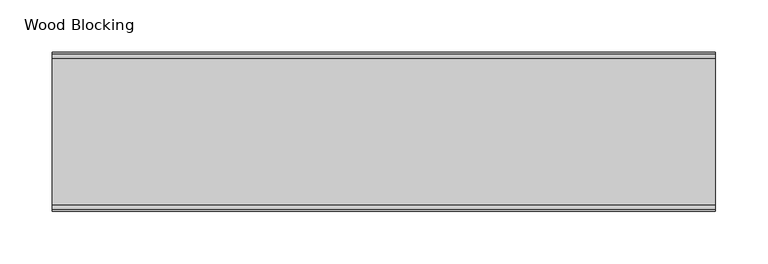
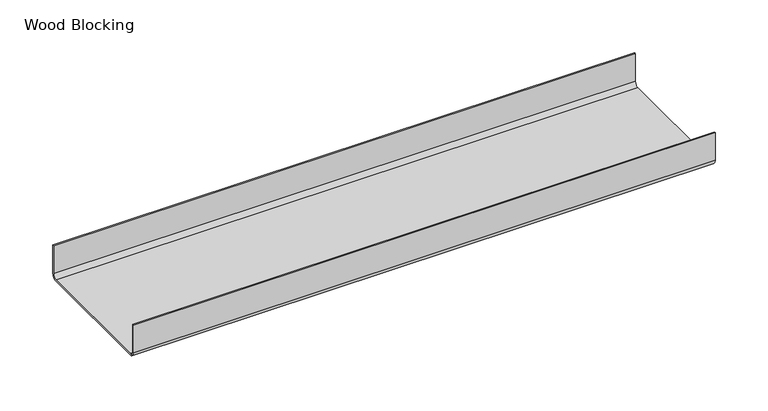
"""IFC4 building model written with IfcOpenShell, lengths in millimetres: proxy geometry, CRAi Generic Model Line Based Metal Framing Track : Wood Blocking."""

from ifc_helpers import new_model, si_unit, point, frame, frame_2d, origin, place, context, project, spatial, polyline, circle_curve, trimmed, segment, composite_curve, outline, extrude, source, transform, mapped, element, save


def wood_blocking_45ac4bf3(model_context):
    return source(origin(), model_context, "Body", "SweptSolid", [
        extrude(outline(composite_curve([segment(polyline([(146.05, 0.0), (6.35, 0.0)]), True, "CONTINUOUS"), segment(trimmed(circle_curve(frame_2d((6.35, 6.35)), 6.35), [point((6.35, 0.0))], [point((0.0, 6.35))], False, "CARTESIAN"), True, "CONTINUOUS"), segment(polyline([(0.0, 6.35), (0.0, 38.1), (1.5875, 38.1), (1.5875, 6.35)]), True, "CONTINUOUS"), segment(trimmed(circle_curve(frame_2d((6.35, 6.35)), 4.7625), [point((1.5875, 6.35))], [point((6.35, 1.5875))], True, "CARTESIAN"), True, "CONTINUOUS"), segment(polyline([(6.35, 1.5875), (146.0504713, 1.5875)]), True, "CONTINUOUS"), segment(trimmed(circle_curve(frame_2d((146.05, 6.35)), 4.7625), [point((146.0504713, 1.5875))], [point((150.8125, 6.3495615))], True, "CARTESIAN"), True, "CONTINUOUS"), segment(polyline([(150.8125, 6.3495615), (150.8125, 38.1), (152.4, 38.1), (152.4, 6.35)]), True, "CONTINUOUS"), segment(trimmed(circle_curve(frame_2d((146.05, 6.35)), 6.35), [point((152.4, 6.35))], [point((146.05, 0.0))], False, "CARTESIAN"), True, "CONTINUOUS")], self_intersect=False)), frame((0.0, 0.0, 0.0), z_axis=(1.0, 0.0, 0.0), x_axis=(0.0, 1.0, 0.0)), (0.0, 0.0, 1.0), 635.0),
    ])


if __name__ == "__main__":
    model = new_model("IFC4")
    model_context = context("Model", 3, world=origin())
    ifc_project = project(units=[si_unit("LENGTHUNIT", "METRE", prefix="MILLI")], contexts=[model_context])
    site = spatial("IfcSite", under=ifc_project)
    building = spatial("IfcBuilding", under=site)
    placement = place(None, origin())
    wood_blocking_shape = wood_blocking_45ac4bf3(model_context)
    element("IfcBuildingElementProxy", 1, Name="CRAi Generic Model Line Based Metal Framing Track : Wood Blocking", ObjectType="CRAi Generic Model Line Based Metal Framing Track : Wood Blocking", at=placement, inside=building, context=model_context, shape_type="MappedRepresentation", body=[
        mapped(wood_blocking_shape, transform((0.0, 0.0, 0.0), x_axis=(1.0, 0.0, 0.0), y_axis=(0.0, 1.0, 0.0), z_axis=(0.0, 0.0, 1.0))),
    ])
    save(model, "model.ifc")
